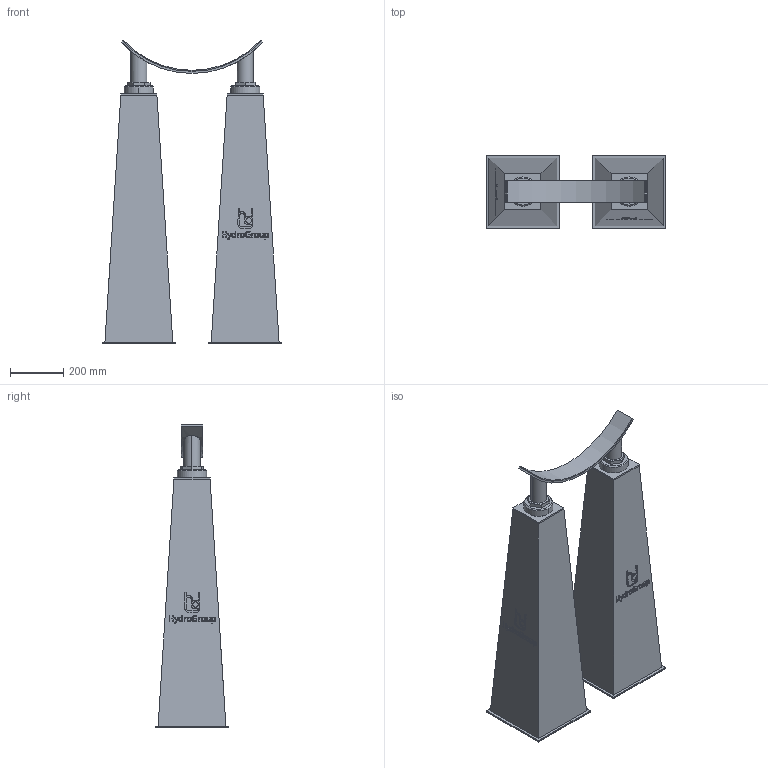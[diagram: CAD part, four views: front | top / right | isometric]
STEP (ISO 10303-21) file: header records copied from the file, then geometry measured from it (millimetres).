
FILE_DESCRIPTION(('STEP AP214'),'1');
FILE_NAME('RSRFE-III-DUO_DN700.stp','2018-07-02T08:40:00',(' '),(' '),'Spatial InterOp 3D',' ',' ');
FILE_SCHEMA(('automotive_design'));
Length unit declared in the file: millimetre
Products named in the file (10): 1; 2; 3; 4; 5; 6; 7; 8; 9; 10
Bounding box: 676.02 x 276.01 x 1143.32 mm (x, y, z)
Volume: 77633007.5 mm3; surface area: 2400755.5 mm2
Topology: 10 solids, 10 shells, 408 faces, 1014 edges, 664 vertices
Faces by surface type: plane 270, cylinder 62, extrusion 48, cone 28
Entity records: 16787 total; most frequent: CARTESIAN_POINT 3694, ORIENTED_EDGE 2028, DIRECTION 1826, EDGE_CURVE 1014, VECTOR 790, LINE 742, VERTEX_POINT 664, AXIS2_PLACEMENT_3D 518
